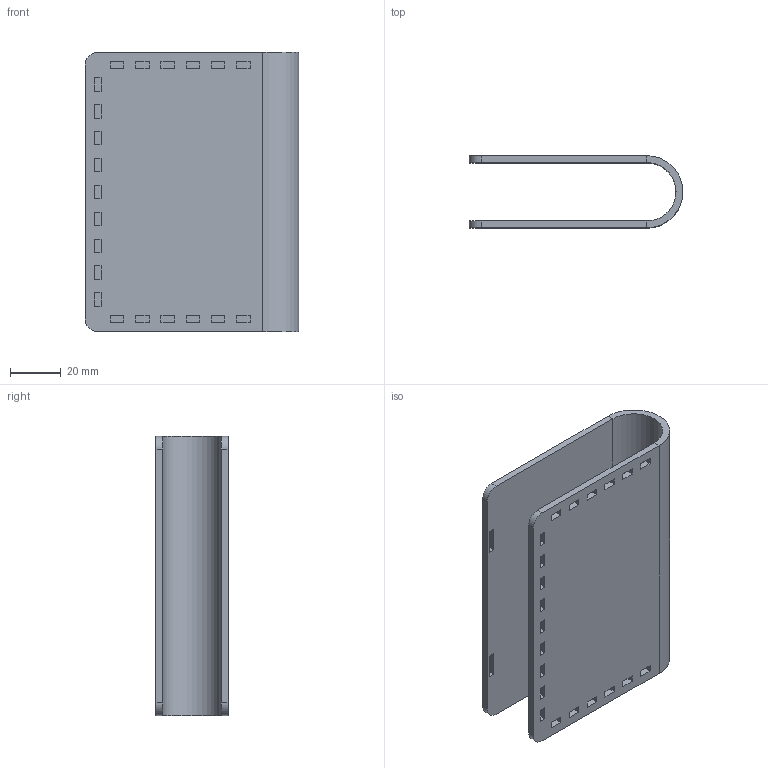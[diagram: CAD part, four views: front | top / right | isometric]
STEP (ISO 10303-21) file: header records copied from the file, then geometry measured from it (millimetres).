
FILE_DESCRIPTION(/* description */ ('STEP AP242 Edition 2','CAx-IF Rec.Pracs.---Representation and Presentation of Product Manufacturing Information (PMI)---4.0---2014-10-13','CAx-IF Rec.Pracs.---3D Tessellated Geometry---0.4---2014-09-14','2;1','CAx-IF Rec.Pracs.---User Defined Attributes---1.5---2016-08-15'),/* implementation_level */ '2;1');
FILE_NAME(/* name */ 'FlexibleBoxPartStudio - BookCover',/* time_stamp */ '2026-02-11T15:49:31Z',/* author */ (''),/* organization */ (''),/* preprocessor_version */ 'ST-DEVELOPER v20',/* originating_system */ 'ONSHAPE BY PTC INC, 1.210',/* authorisation */ ' ');
FILE_SCHEMA (('AP242_MANAGED_MODEL_BASED_3D_ENGINEERING_MIM_LF { 1 0 10303 442 3 1 4 }'));
Length unit declared in the file: metre
Products named in the file (1): BookCover
Bounding box: 84.23 x 28.4 x 110 mm (x, y, z)
Volume: 52606.3 mm3; surface area: 41544.7 mm2
Topology: 1 solids, 1 shells, 110 faces, 316 edges, 208 vertices
Faces by surface type: plane 104, cylinder 6
Entity records: 3642 total; most frequent: CARTESIAN_POINT 635, ORIENTED_EDGE 632, DIRECTION 550, EDGE_CURVE 316, LINE 304, VECTOR 304, VERTEX_POINT 208, EDGE_LOOP 156
